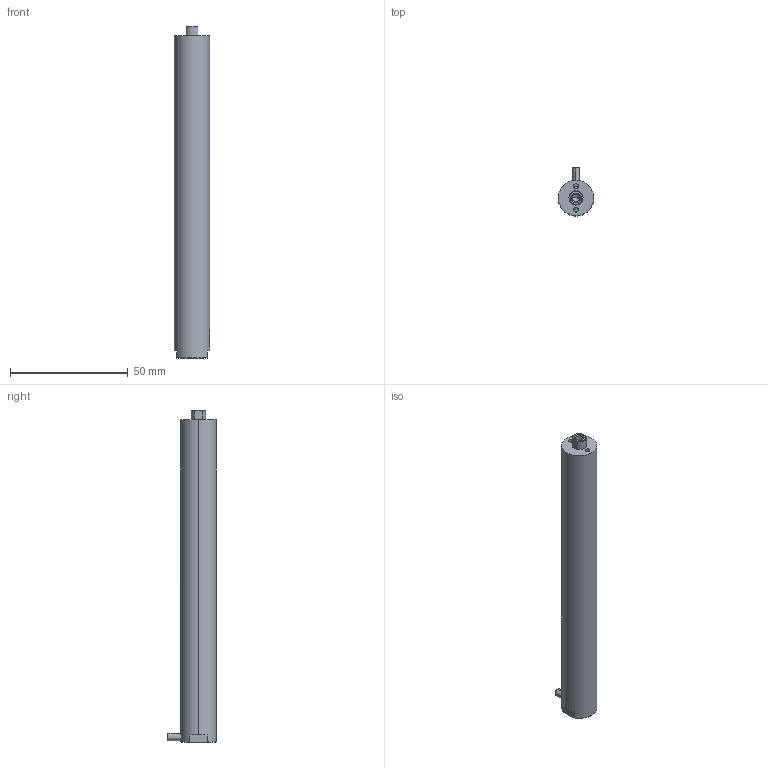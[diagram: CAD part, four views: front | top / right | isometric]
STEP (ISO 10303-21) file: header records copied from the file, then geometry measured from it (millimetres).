
FILE_DESCRIPTION (( 'STEP AP203' ), '1' );
FILE_NAME ('140VS15囀蹟恇.STEP', '2024-11-30T07:38:59', ( 'daohangxitong.com' ), ( 'daohangxitong.com' ), 'SwSTEP 2.0', 'SolidWorks 2016', '' );
FILE_SCHEMA (( 'CONFIG_CONTROL_DESIGN' ));
Length unit declared in the file: millimetre
Products named in the file (1): 140VS15囀蹟恇
Bounding box: 15 x 20.5 x 140.8 mm (x, y, z)
Volume: 24155.2 mm3; surface area: 7035.2 mm2
Topology: 1 solids, 1 shells, 961 faces, 2763 edges, 1834 vertices
Faces by surface type: bspline 842, plane 52, cylinder 51, cone 16
Entity records: 50391 total; most frequent: CARTESIAN_POINT 32720, ORIENTED_EDGE 5510, EDGE_CURVE 2755, B_SPLINE_CURVE_WITH_KNOTS 2582, VERTEX_POINT 1834, EDGE_LOOP 999, FACE_OUTER_BOUND 961, ADVANCED_FACE 961
